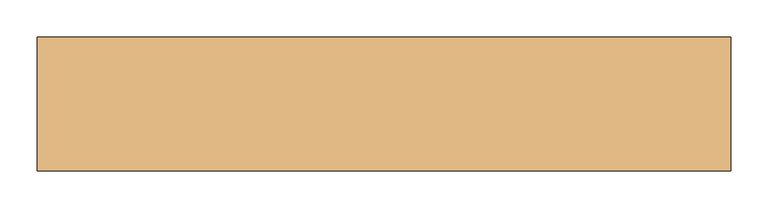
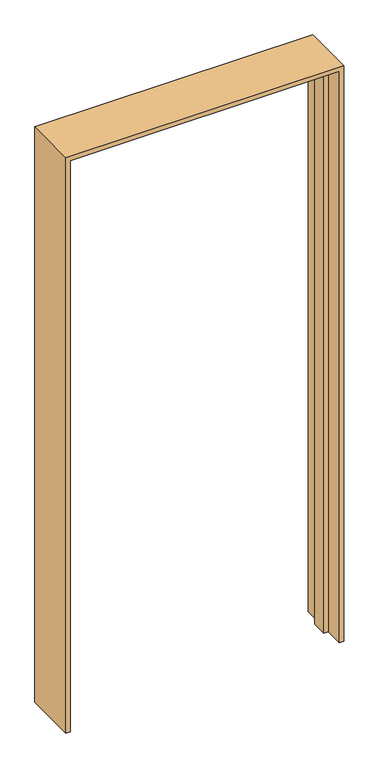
"""IFC4 building model written with IfcOpenShell, lengths in millimetres: door geometry, FREYS HUISSERIE A BANCHER : FREYS 93*2.035."""

from ifc_helpers import new_model, si_unit, origin, place, context, project, spatial, faceted_brep, source, transform, mapped, element, save


def door_a0d7bfd5(model_context):
    return source(origin(), model_context, "Body", "Brep", [
        faceted_brep([(441.8113433, 90.0, 0.0), (456.8113433, 90.0, 0.0), (456.8113433, -90.0, 0.0), (441.8113433, -90.0, 0.0), (441.8113433, -26.2, 0.0), (426.8113433, -26.2, 0.0), (426.8113433, 26.2, 0.0), (441.8113433, 26.2, 0.0), (441.8113433, 90.0, 2020.0), (-458.1886567, 90.0, 2020.0), (-458.1886567, 90.0, 0.0), (-473.1886567, 90.0, 0.0), (-473.1886567, 90.0, 2035.0), (456.8113433, 90.0, 2035.0), (456.8113433, -90.0, 2035.0), (-473.1886567, -90.0, 2035.0), (-473.1886567, -90.0, 0.0), (-458.1886567, -90.0, 0.0), (-458.1886567, -90.0, 2020.0), (441.8113433, -90.0, 2020.0), (441.8113433, -26.2, 2020.0), (-458.1886567, -26.2, 2020.0), (-458.1886567, -26.2, 0.0), (-443.1886567, -26.2, 0.0), (-443.1886567, -26.2, 2005.0), (426.8113433, -26.2, 2005.0), (426.8113433, 26.2, 2005.0), (-443.1886567, 26.2, 2005.0), (-443.1886567, 26.2, 0.0), (-458.1886567, 26.2, 0.0), (-458.1886567, 26.2, 2020.0), (441.8113433, 26.2, 2020.0)], [[[0, 1, 2, 3, 4, 5, 6, 7]], [[1, 0, 8, 9, 10, 11, 12, 13]], [[2, 1, 13, 14]], [[3, 2, 14, 15, 16, 17, 18, 19]], [[4, 3, 19, 20]], [[5, 4, 20, 21, 22, 23, 24, 25]], [[6, 5, 25, 26]], [[7, 6, 26, 27, 28, 29, 30, 31]], [[0, 7, 31, 8]], [[9, 30, 29, 10]], [[10, 29, 28, 23, 22, 17, 16, 11]], [[15, 12, 11, 16]], [[21, 18, 17, 22]], [[27, 24, 23, 28]], [[14, 13, 12, 15]], [[26, 25, 24, 27]], [[20, 19, 18, 21]], [[8, 31, 30, 9]]]),
    ])


if __name__ == "__main__":
    model = new_model("IFC4")
    model_context = context("Model", 3, world=origin())
    ifc_project = project(units=[si_unit("LENGTHUNIT", "METRE", prefix="MILLI")], contexts=[model_context])
    site = spatial("IfcSite", under=ifc_project)
    building = spatial("IfcBuilding", under=site)
    placement = place(None, origin())
    door_shape = door_a0d7bfd5(model_context)
    element("IfcDoor", 1, ObjectType="FREYS HUISSERIE A BANCHER : FREYS 93*2.035", at=placement, inside=building, context=model_context, shape_type="MappedRepresentation", body=[
        mapped(door_shape, transform((0.0, 0.0, 0.0), x_axis=(1.0, 0.0, 0.0), y_axis=(0.0, 1.0, 0.0), z_axis=(0.0, 0.0, 1.0))),
    ])
    save(model, "model.ifc")
